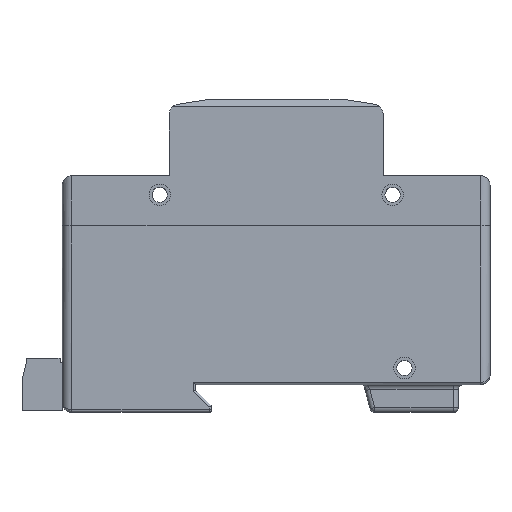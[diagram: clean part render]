
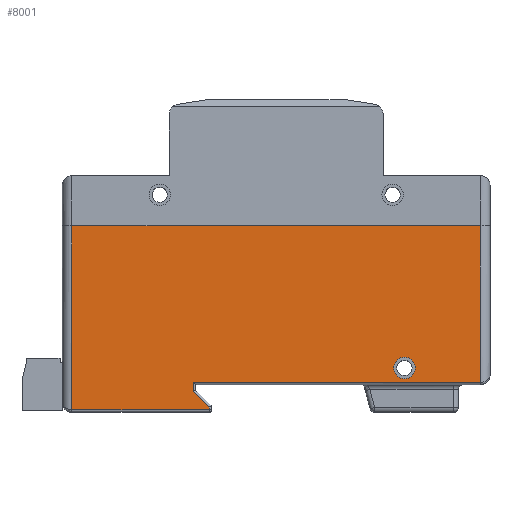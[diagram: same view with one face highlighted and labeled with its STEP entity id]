
A CAD part, top view. The second image highlights one B-rep face of the part: STEP entity #8001.
In plain terms, the highlighted planar face has unit normal (0, 0, 1).
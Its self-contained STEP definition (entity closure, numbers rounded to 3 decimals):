
#224=CIRCLE('',#8645,2.25);
#225=CIRCLE('',#8646,2.25);
#515=FACE_BOUND('',#1115,.T.);
#641=FACE_OUTER_BOUND('',#1114,.T.);
#1114=EDGE_LOOP('',(#5670,#5671,#5672,#5673,#5674,#5675,#5676,#5677));
#1115=EDGE_LOOP('',(#5678,#5679));
#1720=LINE('',#11965,#2605);
#1790=LINE('',#12128,#2675);
#1796=LINE('',#12143,#2681);
#1797=LINE('',#12145,#2682);
#1798=LINE('',#12147,#2683);
#1799=LINE('',#12149,#2684);
#1800=LINE('',#12151,#2685);
#1801=LINE('',#12152,#2686);
#2605=VECTOR('',#9560,10.);
#2675=VECTOR('',#9690,10.);
#2681=VECTOR('',#9704,10.);
#2682=VECTOR('',#9705,10.);
#2683=VECTOR('',#9706,10.);
#2684=VECTOR('',#9707,10.);
#2685=VECTOR('',#9708,10.);
#2686=VECTOR('',#9709,10.);
#3454=VERTEX_POINT('',#11962);
#3455=VERTEX_POINT('',#11964);
#3518=VERTEX_POINT('',#12126);
#3523=VERTEX_POINT('',#12142);
#3524=VERTEX_POINT('',#12144);
#3525=VERTEX_POINT('',#12146);
#3526=VERTEX_POINT('',#12148);
#3527=VERTEX_POINT('',#12150);
#3528=VERTEX_POINT('',#12153);
#3529=VERTEX_POINT('',#12154);
#4259=EDGE_CURVE('',#3455,#3454,#1720,.T.);
#4342=EDGE_CURVE('',#3518,#3454,#1790,.T.);
#4349=EDGE_CURVE('',#3523,#3518,#1796,.T.);
#4350=EDGE_CURVE('',#3524,#3523,#1797,.T.);
#4351=EDGE_CURVE('',#3525,#3524,#1798,.T.);
#4352=EDGE_CURVE('',#3526,#3525,#1799,.T.);
#4353=EDGE_CURVE('',#3527,#3526,#1800,.T.);
#4354=EDGE_CURVE('',#3455,#3527,#1801,.T.);
#4355=EDGE_CURVE('',#3528,#3529,#224,.T.);
#4356=EDGE_CURVE('',#3529,#3528,#225,.T.);
#5670=ORIENTED_EDGE('',*,*,#4259,.T.);
#5671=ORIENTED_EDGE('',*,*,#4342,.F.);
#5672=ORIENTED_EDGE('',*,*,#4349,.F.);
#5673=ORIENTED_EDGE('',*,*,#4350,.F.);
#5674=ORIENTED_EDGE('',*,*,#4351,.F.);
#5675=ORIENTED_EDGE('',*,*,#4352,.F.);
#5676=ORIENTED_EDGE('',*,*,#4353,.F.);
#5677=ORIENTED_EDGE('',*,*,#4354,.F.);
#5678=ORIENTED_EDGE('',*,*,#4355,.T.);
#5679=ORIENTED_EDGE('',*,*,#4356,.T.);
#7652=PLANE('',#8644);
#8001=ADVANCED_FACE('',(#641,#515),#7652,.T.);
#8644=AXIS2_PLACEMENT_3D('',#12141,#9702,#9703);
#8645=AXIS2_PLACEMENT_3D('',#12155,#9710,#9711);
#8646=AXIS2_PLACEMENT_3D('',#12156,#9712,#9713);
#9560=DIRECTION('',(-1.,0.,0.));
#9690=DIRECTION('',(0.,1.,0.));
#9702=DIRECTION('center_axis',(0.,0.,1.));
#9703=DIRECTION('ref_axis',(1.,0.,0.));
#9704=DIRECTION('',(-1.,0.,0.));
#9705=DIRECTION('',(0.,-1.,0.));
#9706=DIRECTION('',(0.718,-0.696,0.));
#9707=DIRECTION('',(0.,-1.,0.));
#9708=DIRECTION('',(-1.,0.,0.));
#9709=DIRECTION('',(0.,-1.,0.));
#9710=DIRECTION('center_axis',(0.,0.,-1.));
#9711=DIRECTION('ref_axis',(1.,0.,0.));
#9712=DIRECTION('center_axis',(0.,0.,-1.));
#9713=DIRECTION('ref_axis',(1.,0.,0.));
#11962=CARTESIAN_POINT('',(-43.,3.4,35.2));
#11964=CARTESIAN_POINT('',(43.,3.4,35.2));
#11965=CARTESIAN_POINT('',(0.046,3.4,35.2));
#12126=CARTESIAN_POINT('',(-43.,-35.3,35.2));
#12128=CARTESIAN_POINT('',(-43.,4.121,35.2));
#12141=CARTESIAN_POINT('Origin',(-0.355,-5.758,35.2));
#12142=CARTESIAN_POINT('',(-14.1,-35.3,35.2));
#12143=CARTESIAN_POINT('',(-22.678,-35.3,35.2));
#12144=CARTESIAN_POINT('',(-14.1,-34.711,35.2));
#12145=CARTESIAN_POINT('',(-14.1,-20.779,35.2));
#12146=CARTESIAN_POINT('',(-17.5,-31.411,35.2));
#12147=CARTESIAN_POINT('',(-17.721,-31.197,35.2));
#12148=CARTESIAN_POINT('',(-17.5,-29.5,35.2));
#12149=CARTESIAN_POINT('',(-17.5,-18.479,35.2));
#12150=CARTESIAN_POINT('',(43.,-29.5,35.2));
#12151=CARTESIAN_POINT('',(18.972,-29.5,35.2));
#12152=CARTESIAN_POINT('',(43.,-17.879,35.2));
#12153=CARTESIAN_POINT('',(29.25,-26.5,35.2));
#12154=CARTESIAN_POINT('',(24.75,-26.5,35.2));
#12155=CARTESIAN_POINT('Origin',(27.,-26.5,35.2));
#12156=CARTESIAN_POINT('Origin',(27.,-26.5,35.2));
